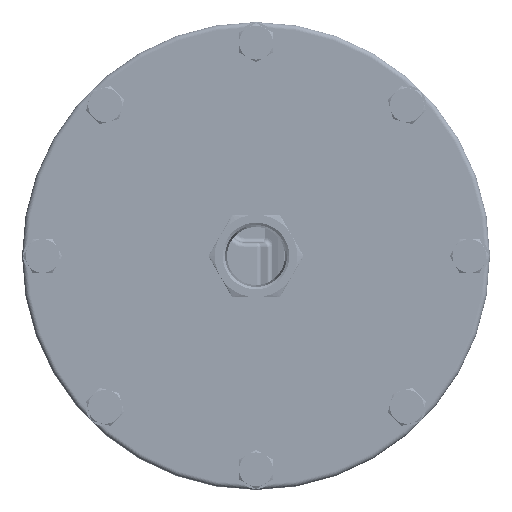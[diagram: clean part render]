
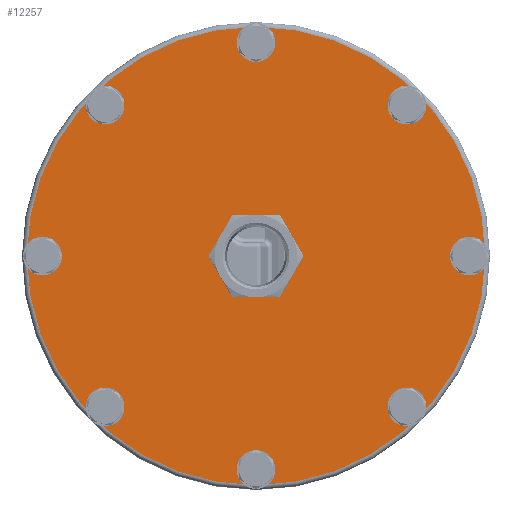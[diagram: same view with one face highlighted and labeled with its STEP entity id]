
A CAD part, front view. The second image highlights one B-rep face of the part: STEP entity #12257.
In plain terms, the highlighted planar face has unit normal (0, -1, 0).
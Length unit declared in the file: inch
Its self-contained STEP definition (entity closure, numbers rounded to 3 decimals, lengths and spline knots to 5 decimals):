
#1088 = DIRECTION ( 'NONE',  ( 0.707, 0., -0.707 ) ) ;
#1342 = AXIS2_PLACEMENT_3D ( 'NONE', #38611, #32426, #4163 ) ;
#1400 = ORIENTED_EDGE ( 'NONE', *, *, #21309, .T. ) ;
#1524 = CIRCLE ( 'NONE', #27233, 0.1405 ) ;
#1758 = DIRECTION ( 'NONE',  ( -0.707, 0., -0.707 ) ) ;
#2126 = EDGE_LOOP ( 'NONE', ( #10091 ) ) ;
#2292 = AXIS2_PLACEMENT_3D ( 'NONE', #15171, #27773, #18891 ) ;
#2399 = FACE_BOUND ( 'NONE', #3907, .T. ) ;
#2565 = EDGE_CURVE ( 'NONE', #26680, #26680, #39935, .T. ) ;
#3803 = CIRCLE ( 'NONE', #32133, 0.1405 ) ;
#3907 = EDGE_LOOP ( 'NONE', ( #23024 ) ) ;
#4163 = DIRECTION ( 'NONE',  ( 0., 0., -1. ) ) ;
#4456 = EDGE_LOOP ( 'NONE', ( #38898 ) ) ;
#6162 = AXIS2_PLACEMENT_3D ( 'NONE', #27273, #24572, #36558 ) ;
#6296 = FACE_BOUND ( 'NONE', #25712, .T. ) ;
#6850 = CIRCLE ( 'NONE', #6883, 0.1405 ) ;
#6883 = AXIS2_PLACEMENT_3D ( 'NONE', #21821, #18331, #40182 ) ;
#7855 = VERTEX_POINT ( 'NONE', #20442 ) ;
#8605 = AXIS2_PLACEMENT_3D ( 'NONE', #21814, #9445, #20859 ) ;
#8803 = PLANE ( 'NONE',  #2292 ) ;
#8989 = EDGE_CURVE ( 'NONE', #37776, #37776, #1524, .T. ) ;
#9219 = EDGE_CURVE ( 'NONE', #37979, #37979, #25220, .T. ) ;
#9445 = DIRECTION ( 'NONE',  ( 0., 1., 0. ) ) ;
#10091 = ORIENTED_EDGE ( 'NONE', *, *, #18545, .T. ) ;
#10607 = CARTESIAN_POINT ( 'NONE',  ( -3.69, -3.76125, 0. ) ) ;
#11291 = EDGE_CURVE ( 'NONE', #31591, #31591, #6850, .T. ) ;
#12257 = ADVANCED_FACE ( 'NONE', ( #36858, #2399, #24870, #30656, #34563, #15581, #39930, #18687, #14966, #6296 ), #8803, .F. ) ;
#13209 = EDGE_LOOP ( 'NONE', ( #27286 ) ) ;
#14119 = AXIS2_PLACEMENT_3D ( 'NONE', #19723, #38880, #1758 ) ;
#14250 = EDGE_LOOP ( 'NONE', ( #15856 ) ) ;
#14955 = ORIENTED_EDGE ( 'NONE', *, *, #2565, .T. ) ;
#14966 = FACE_OUTER_BOUND ( 'NONE', #25774, .T. ) ;
#15171 = CARTESIAN_POINT ( 'NONE',  ( -0.94, -3.76125, 0. ) ) ;
#15581 = FACE_BOUND ( 'NONE', #38124, .T. ) ;
#15856 = ORIENTED_EDGE ( 'NONE', *, *, #31167, .T. ) ;
#17138 = CARTESIAN_POINT ( 'NONE',  ( -0.94, -3.76125, -2.8905 ) ) ;
#18021 = DIRECTION ( 'NONE',  ( -1., 0., 0. ) ) ;
#18331 = DIRECTION ( 'NONE',  ( 0., 1., 0. ) ) ;
#18462 = CIRCLE ( 'NONE', #1342, 0.1405 ) ;
#18545 = EDGE_CURVE ( 'NONE', #19423, #19423, #39144, .T. ) ;
#18687 = FACE_BOUND ( 'NONE', #2126, .T. ) ;
#18891 = DIRECTION ( 'NONE',  ( -1., 0., 0. ) ) ;
#19423 = VERTEX_POINT ( 'NONE', #26216 ) ;
#19723 = CARTESIAN_POINT ( 'NONE',  ( -2.88454, -3.76125, -1.94454 ) ) ;
#19848 = CIRCLE ( 'NONE', #25107, 0.1405 ) ;
#19870 = CARTESIAN_POINT ( 'NONE',  ( 1.00454, -3.76125, -1.94454 ) ) ;
#20203 = CIRCLE ( 'NONE', #36020, 2.9525 ) ;
#20242 = CARTESIAN_POINT ( 'NONE',  ( -2.98389, -3.76125, 2.04389 ) ) ;
#20316 = DIRECTION ( 'NONE',  ( -1., 0., 0. ) ) ;
#20442 = CARTESIAN_POINT ( 'NONE',  ( 1.10389, -3.76125, 2.04389 ) ) ;
#20693 = CARTESIAN_POINT ( 'NONE',  ( -3.8305, -3.76125, 0. ) ) ;
#20859 = DIRECTION ( 'NONE',  ( 0.707, 0., 0.707 ) ) ;
#21309 = EDGE_CURVE ( 'NONE', #26832, #26832, #20203, .T. ) ;
#21497 = CARTESIAN_POINT ( 'NONE',  ( 1.10389, -3.76125, -2.04389 ) ) ;
#21737 = DIRECTION ( 'NONE',  ( 0., 1., 0. ) ) ;
#21814 = CARTESIAN_POINT ( 'NONE',  ( 1.00454, -3.76125, 1.94454 ) ) ;
#21821 = CARTESIAN_POINT ( 'NONE',  ( -0.94, -3.76125, 2.75 ) ) ;
#21936 = DIRECTION ( 'NONE',  ( 1., 0., 0. ) ) ;
#22153 = AXIS2_PLACEMENT_3D ( 'NONE', #10607, #23394, #20316 ) ;
#22249 = ORIENTED_EDGE ( 'NONE', *, *, #8989, .T. ) ;
#22361 = EDGE_LOOP ( 'NONE', ( #14955 ) ) ;
#22823 = ORIENTED_EDGE ( 'NONE', *, *, #11291, .T. ) ;
#22937 = DIRECTION ( 'NONE',  ( 0., 1., 0. ) ) ;
#23024 = ORIENTED_EDGE ( 'NONE', *, *, #30992, .T. ) ;
#23337 = DIRECTION ( 'NONE',  ( -0.707, 0., 0.707 ) ) ;
#23394 = DIRECTION ( 'NONE',  ( 0., 1., 0. ) ) ;
#23529 = VERTEX_POINT ( 'NONE', #20242 ) ;
#24188 = EDGE_CURVE ( 'NONE', #39805, #39805, #3803, .T. ) ;
#24572 = DIRECTION ( 'NONE',  ( 0., -1., 0. ) ) ;
#24870 = FACE_BOUND ( 'NONE', #26313, .T. ) ;
#25107 = AXIS2_PLACEMENT_3D ( 'NONE', #36133, #22937, #23337 ) ;
#25220 = CIRCLE ( 'NONE', #6162, 0.5 ) ;
#25712 = EDGE_LOOP ( 'NONE', ( #26167 ) ) ;
#25774 = EDGE_LOOP ( 'NONE', ( #1400 ) ) ;
#26167 = ORIENTED_EDGE ( 'NONE', *, *, #9219, .F. ) ;
#26216 = CARTESIAN_POINT ( 'NONE',  ( -2.98389, -3.76125, -2.04389 ) ) ;
#26313 = EDGE_LOOP ( 'NONE', ( #22823 ) ) ;
#26680 = VERTEX_POINT ( 'NONE', #20693 ) ;
#26832 = VERTEX_POINT ( 'NONE', #33428 ) ;
#27036 = CARTESIAN_POINT ( 'NONE',  ( 1.9505, -3.76125, 0. ) ) ;
#27233 = AXIS2_PLACEMENT_3D ( 'NONE', #19870, #29969, #1088 ) ;
#27273 = CARTESIAN_POINT ( 'NONE',  ( -0.94, -3.76125, 0. ) ) ;
#27286 = ORIENTED_EDGE ( 'NONE', *, *, #24188, .T. ) ;
#27724 = DIRECTION ( 'NONE',  ( 0., -1., 0. ) ) ;
#27773 = DIRECTION ( 'NONE',  ( 0., 1., 0. ) ) ;
#28498 = CARTESIAN_POINT ( 'NONE',  ( -0.94, -3.76125, 2.8905 ) ) ;
#29969 = DIRECTION ( 'NONE',  ( 0., 1., 0. ) ) ;
#30618 = CARTESIAN_POINT ( 'NONE',  ( 1.81, -3.76125, 0. ) ) ;
#30656 = FACE_BOUND ( 'NONE', #4456, .T. ) ;
#30992 = EDGE_CURVE ( 'NONE', #23529, #23529, #19848, .T. ) ;
#31167 = EDGE_CURVE ( 'NONE', #39201, #39201, #18462, .T. ) ;
#31222 = EDGE_CURVE ( 'NONE', #7855, #7855, #34943, .T. ) ;
#31591 = VERTEX_POINT ( 'NONE', #28498 ) ;
#32133 = AXIS2_PLACEMENT_3D ( 'NONE', #30618, #21737, #21936 ) ;
#32426 = DIRECTION ( 'NONE',  ( 0., 1., 0. ) ) ;
#33428 = CARTESIAN_POINT ( 'NONE',  ( -3.8925, -3.76125, 0. ) ) ;
#34285 = CARTESIAN_POINT ( 'NONE',  ( -0.44, -3.76125, 0. ) ) ;
#34563 = FACE_BOUND ( 'NONE', #13209, .T. ) ;
#34943 = CIRCLE ( 'NONE', #8605, 0.1405 ) ;
#36020 = AXIS2_PLACEMENT_3D ( 'NONE', #40092, #27724, #18021 ) ;
#36133 = CARTESIAN_POINT ( 'NONE',  ( -2.88454, -3.76125, 1.94454 ) ) ;
#36558 = DIRECTION ( 'NONE',  ( 1., 0., 0. ) ) ;
#36858 = FACE_BOUND ( 'NONE', #22361, .T. ) ;
#37776 = VERTEX_POINT ( 'NONE', #21497 ) ;
#37979 = VERTEX_POINT ( 'NONE', #34285 ) ;
#38124 = EDGE_LOOP ( 'NONE', ( #22249 ) ) ;
#38611 = CARTESIAN_POINT ( 'NONE',  ( -0.94, -3.76125, -2.75 ) ) ;
#38880 = DIRECTION ( 'NONE',  ( 0., 1., 0. ) ) ;
#38898 = ORIENTED_EDGE ( 'NONE', *, *, #31222, .T. ) ;
#39144 = CIRCLE ( 'NONE', #14119, 0.1405 ) ;
#39201 = VERTEX_POINT ( 'NONE', #17138 ) ;
#39805 = VERTEX_POINT ( 'NONE', #27036 ) ;
#39930 = FACE_BOUND ( 'NONE', #14250, .T. ) ;
#39935 = CIRCLE ( 'NONE', #22153, 0.1405 ) ;
#40092 = CARTESIAN_POINT ( 'NONE',  ( -0.94, -3.76125, 0. ) ) ;
#40182 = DIRECTION ( 'NONE',  ( 0., 0., 1. ) ) ;
